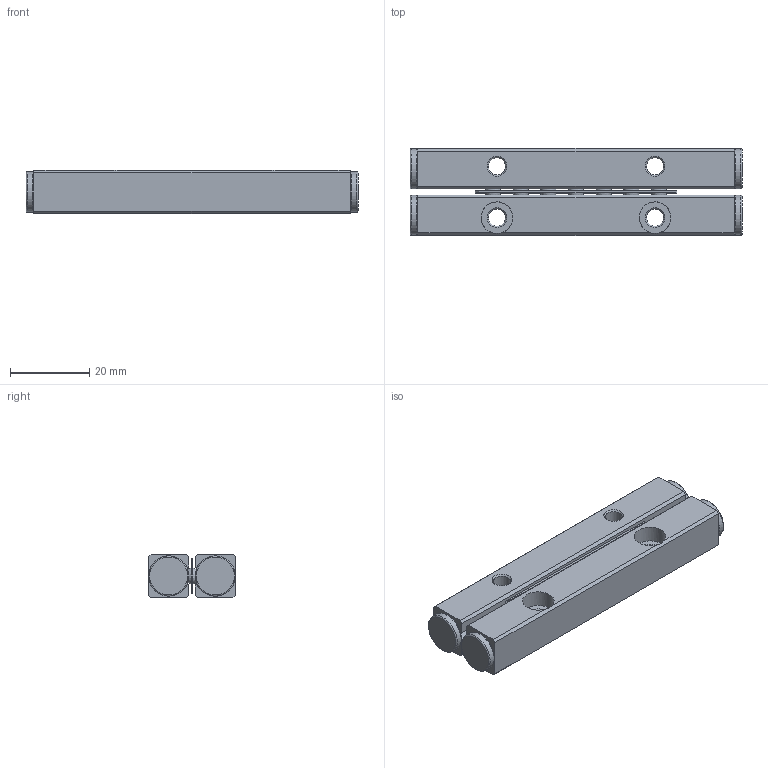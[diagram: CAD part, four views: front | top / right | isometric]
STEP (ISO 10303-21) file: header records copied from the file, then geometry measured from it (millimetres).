
FILE_DESCRIPTION(/* description */ ('STEP AP214'),/* implementation_level */ '2;1');
FILE_NAME(/* name */ 'VB4-80Hx7Z(0)',/* time_stamp */ '2024-09-19T10:02:55+02:00',/* author */ ('License CC BY-ND 4.0'),/* organization */ ('CADENAS'),/* preprocessor_version */ 'ST-DEVELOPER v19.3',/* originating_system */ 'PARTsolutions',/* authorisation */ ' ');
FILE_SCHEMA (('AUTOMOTIVE_DESIGN {1 0 10303 214 3 1 1}'));
Length unit declared in the file: millimetre
Products named in the file (3): VB4-80Hx7Z(0); VR4-80*7Z Ball guide; VR4-80*7Z Ball cage
Assembly tree (3 placements, depth 2):
  VB4-80Hx7Z(0)
    VR4-80*7Z Ball guide  x2
    VR4-80*7Z Ball cage
Bounding box: 84 x 22 x 11 mm (x, y, z)
Volume: 16976.3 mm3; surface area: 9313.2 mm2
Topology: 3 solids, 3 shells, 90 faces, 200 edges, 130 vertices
Faces by surface type: plane 48, sphere 14, cylinder 12, cone 8, torus 8
Full cylindrical faces by diameter (mm): 4.3 x4, 8 x4, 10.2 x4
Entity records: 1512 total; most frequent: DIRECTION 261, CARTESIAN_POINT 238, ORIENTED_EDGE 202, EDGE_CURVE 101, AXIS2_PLACEMENT_3D 99, EDGE_LOOP 89, FACE_BOUND 89, VERTEX_POINT 76
